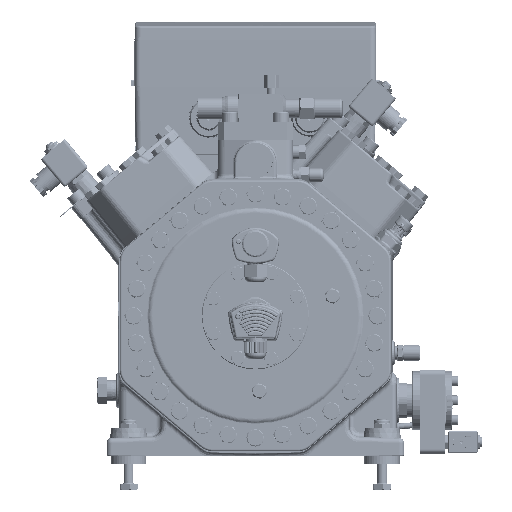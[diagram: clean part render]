
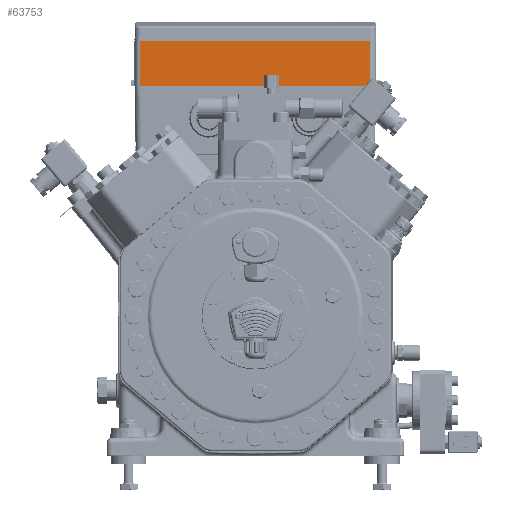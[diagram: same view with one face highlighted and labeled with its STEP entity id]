
A CAD part, front view. The second image highlights one B-rep face of the part: STEP entity #63753.
In plain terms, the highlighted planar face has unit normal (0, -1, 0).
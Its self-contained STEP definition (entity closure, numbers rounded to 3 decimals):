
#50429=FACE_OUTER_BOUND('',#115742,.T.);
#63753=ADVANCED_FACE('',(#50429),#71480,.T.);
#71480=PLANE('',#262847);
#82598=LINE('',#424807,#94960);
#82688=LINE('',#425404,#95050);
#82689=LINE('',#425407,#95051);
#82690=LINE('',#425408,#95052);
#94960=VECTOR('',#311311,1.);
#95050=VECTOR('',#311571,1.);
#95051=VECTOR('',#311572,1.);
#95052=VECTOR('',#311573,1.);
#115742=EDGE_LOOP('',(#165973,#165974,#165975,#165976));
#165973=ORIENTED_EDGE('',*,*,#227732,.F.);
#165974=ORIENTED_EDGE('',*,*,#227733,.T.);
#165975=ORIENTED_EDGE('',*,*,#227552,.T.);
#165976=ORIENTED_EDGE('',*,*,#227734,.T.);
#198460=VERTEX_POINT('',#424806);
#198461=VERTEX_POINT('',#424808);
#198623=VERTEX_POINT('',#425405);
#198624=VERTEX_POINT('',#425406);
#227552=EDGE_CURVE('',#198461,#198460,#82598,.T.);
#227732=EDGE_CURVE('',#198623,#198624,#82688,.T.);
#227733=EDGE_CURVE('',#198623,#198461,#82689,.T.);
#227734=EDGE_CURVE('',#198460,#198624,#82690,.T.);
#262847=AXIS2_PLACEMENT_3D('',#425409,#311574,#311575);
#311311=DIRECTION('',(1.,0.,0.));
#311571=DIRECTION('',(1.,0.,0.));
#311572=DIRECTION('',(0.,0.,-1.));
#311573=DIRECTION('',(0.,0.,1.));
#311574=DIRECTION('',(0.,-1.,0.));
#311575=DIRECTION('',(0.,0.,1.));
#424806=CARTESIAN_POINT('',(116.,-94.5,70.));
#424807=CARTESIAN_POINT('',(0.,-94.5,70.));
#424808=CARTESIAN_POINT('',(-116.,-94.5,70.));
#425404=CARTESIAN_POINT('',(0.,-94.5,115.5));
#425405=CARTESIAN_POINT('',(-116.,-94.5,115.5));
#425406=CARTESIAN_POINT('',(116.,-94.5,115.5));
#425407=CARTESIAN_POINT('',(-116.,-94.5,118.));
#425408=CARTESIAN_POINT('',(116.,-94.5,118.));
#425409=CARTESIAN_POINT('',(0.,-94.5,118.));
